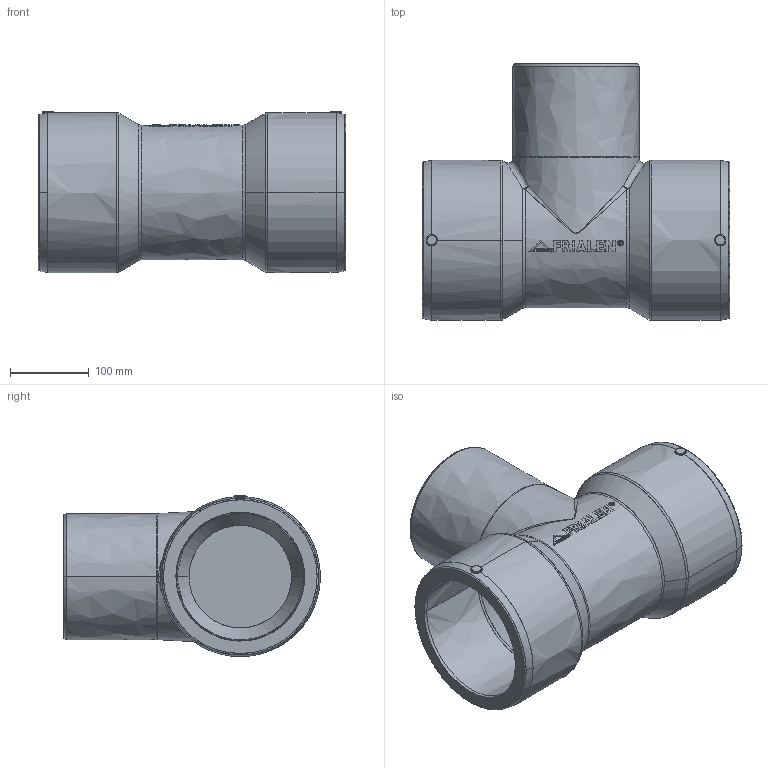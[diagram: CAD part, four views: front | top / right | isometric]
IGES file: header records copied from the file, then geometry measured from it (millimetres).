
Start section:  PTC IGES file: ta_d160_d160_01.igs
Global section: file name: ta_d160_d160_01.igs; native system: Creo Parametric by PTC Inc.; preprocessor: 2019030; author: jungmang; organization: Unknown; date: 20201222.090043; units: millimetre
Bounding box: 390 x 325.5 x 204.6 mm (x, y, z)
Surface area: 498166.5 mm2 (no closed solid volume)
Topology: 0 solids, 0 shells, 277 faces, 1386 edges, 1386 vertices
Faces by surface type: bspline 277
